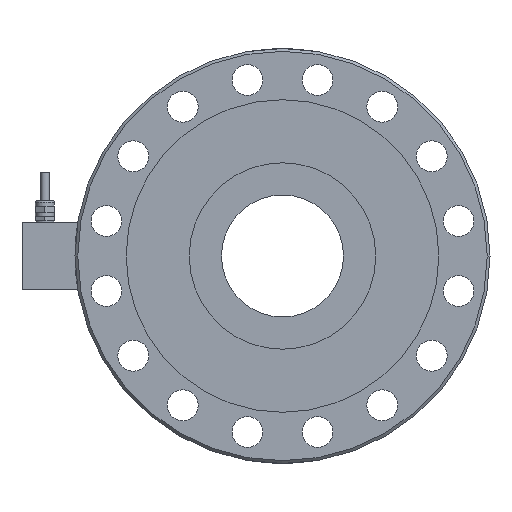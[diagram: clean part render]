
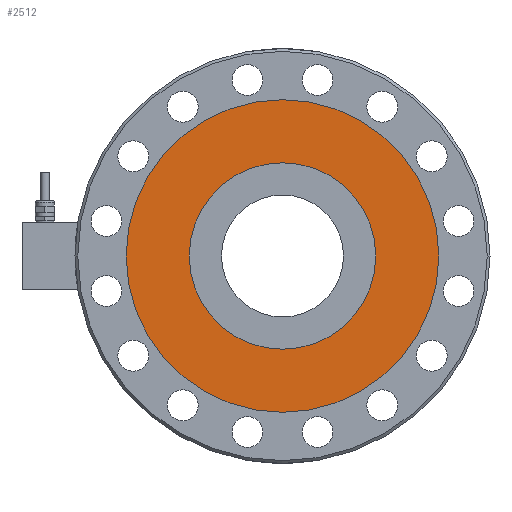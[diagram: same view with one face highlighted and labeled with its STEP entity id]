
A CAD part, front view. The second image highlights one B-rep face of the part: STEP entity #2512.
In plain terms, the highlighted planar face has unit normal (0, -1, 0).
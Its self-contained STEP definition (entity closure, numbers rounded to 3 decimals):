
#88 = DIRECTION ( 'NONE',  ( 0., -1., 0. ) ) ;
#138 = EDGE_LOOP ( 'NONE', ( #2499, #3009 ) ) ;
#267 = CARTESIAN_POINT ( 'NONE',  ( 0., 4., 0. ) ) ;
#319 = CARTESIAN_POINT ( 'NONE',  ( 0., 4., 0. ) ) ;
#459 = CARTESIAN_POINT ( 'NONE',  ( 111.5, 4., 0. ) ) ;
#572 = DIRECTION ( 'NONE',  ( 1., 0., 0. ) ) ;
#658 = EDGE_CURVE ( 'NONE', #1444, #1839, #1477, .T. ) ;
#731 = VERTEX_POINT ( 'NONE', #2604 ) ;
#766 = DIRECTION ( 'NONE',  ( 1., 0., 0. ) ) ;
#779 = AXIS2_PLACEMENT_3D ( 'NONE', #1027, #1532, #2980 ) ;
#803 = FACE_BOUND ( 'NONE', #3156, .T. ) ;
#1027 = CARTESIAN_POINT ( 'NONE',  ( 66.5, 4., 0. ) ) ;
#1113 = CARTESIAN_POINT ( 'NONE',  ( 0., 4., 0. ) ) ;
#1174 = EDGE_CURVE ( 'NONE', #1839, #1444, #2886, .T. ) ;
#1388 = DIRECTION ( 'NONE',  ( 1., 0., 0. ) ) ;
#1444 = VERTEX_POINT ( 'NONE', #2580 ) ;
#1477 = CIRCLE ( 'NONE', #1639, 111.5 ) ;
#1523 = CARTESIAN_POINT ( 'NONE',  ( 66.5, 4., 0. ) ) ;
#1532 = DIRECTION ( 'NONE',  ( 0., -1., 0. ) ) ;
#1639 = AXIS2_PLACEMENT_3D ( 'NONE', #1872, #88, #1388 ) ;
#1839 = VERTEX_POINT ( 'NONE', #459 ) ;
#1872 = CARTESIAN_POINT ( 'NONE',  ( 0., 4., 0. ) ) ;
#2002 = FACE_OUTER_BOUND ( 'NONE', #138, .T. ) ;
#2085 = AXIS2_PLACEMENT_3D ( 'NONE', #319, #2333, #2518 ) ;
#2273 = VERTEX_POINT ( 'NONE', #1523 ) ;
#2333 = DIRECTION ( 'NONE',  ( 0., -1., 0. ) ) ;
#2386 = ORIENTED_EDGE ( 'NONE', *, *, #2981, .F. ) ;
#2434 = CIRCLE ( 'NONE', #2085, 66.5 ) ;
#2473 = CIRCLE ( 'NONE', #2885, 66.5 ) ;
#2480 = EDGE_CURVE ( 'NONE', #2273, #731, #2434, .T. ) ;
#2499 = ORIENTED_EDGE ( 'NONE', *, *, #1174, .T. ) ;
#2512 = ADVANCED_FACE ( 'NONE', ( #2002, #803 ), #2758, .T. ) ;
#2518 = DIRECTION ( 'NONE',  ( 1., 0., 0. ) ) ;
#2580 = CARTESIAN_POINT ( 'NONE',  ( -111.5, 4., 0. ) ) ;
#2604 = CARTESIAN_POINT ( 'NONE',  ( -66.5, 4., 0. ) ) ;
#2758 = PLANE ( 'NONE',  #779 ) ;
#2885 = AXIS2_PLACEMENT_3D ( 'NONE', #267, #2976, #766 ) ;
#2886 = CIRCLE ( 'NONE', #3043, 111.5 ) ;
#2976 = DIRECTION ( 'NONE',  ( 0., -1., 0. ) ) ;
#2980 = DIRECTION ( 'NONE',  ( 1., 0., 0. ) ) ;
#2981 = EDGE_CURVE ( 'NONE', #731, #2273, #2473, .T. ) ;
#3009 = ORIENTED_EDGE ( 'NONE', *, *, #658, .T. ) ;
#3043 = AXIS2_PLACEMENT_3D ( 'NONE', #1113, #3078, #572 ) ;
#3078 = DIRECTION ( 'NONE',  ( 0., -1., 0. ) ) ;
#3099 = ORIENTED_EDGE ( 'NONE', *, *, #2480, .F. ) ;
#3156 = EDGE_LOOP ( 'NONE', ( #3099, #2386 ) ) ;
